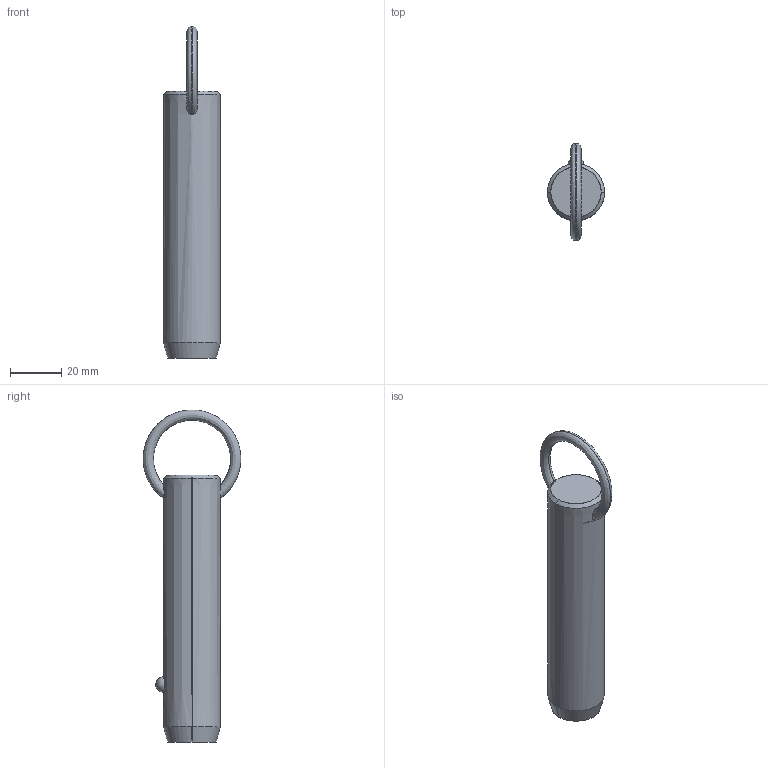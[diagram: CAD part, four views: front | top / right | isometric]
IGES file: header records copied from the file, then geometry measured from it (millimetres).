
Start section: SolidWorks IGES file using analytic representation for surfaces
Global section: file name: C:\Users\liam_\OneDrive\Documents\WORK\Work for WixRoyd\Job Files\J-00019 - Matt Davis CAD Checking\04. CAD Drawings\automotion20190605\P1250.2_v2\P1250.2_v2_20190729_IGES\P1250.087-260.igs; native system: SolidWorks 2017; preprocessor: SolidWorks 2017; author: liam_; date: 190730.000750; units: millimetre
Bounding box: 22.2 x 38.09 x 129.49 mm (x, y, z)
Surface area: 8904 mm2 (no closed solid volume)
Topology: 0 solids, 0 shells, 12 faces, 302 edges, 300 vertices
Faces by surface type: revolution 8, bspline 4
